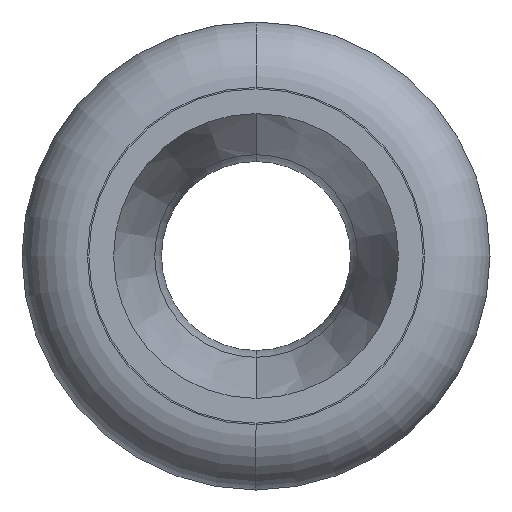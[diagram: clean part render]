
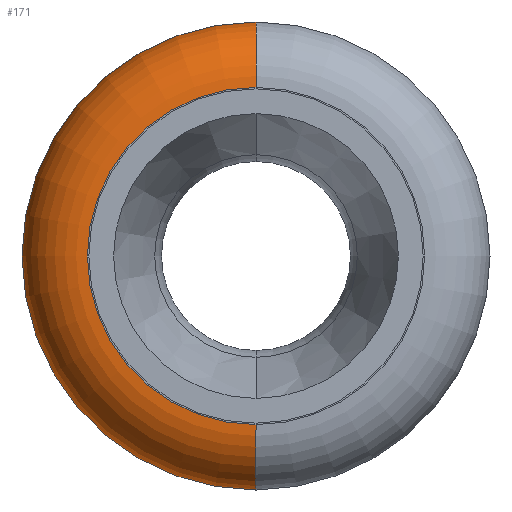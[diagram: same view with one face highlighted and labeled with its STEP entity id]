
A CAD part, left-side view. The second image highlights one B-rep face of the part: STEP entity #171.
In plain terms, the highlighted toroidal (fillet/blend) face has major radius 5.8 mm and minor radius 2.25 mm.
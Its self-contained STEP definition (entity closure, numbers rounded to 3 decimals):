
#171=ADVANCED_FACE('',(#388),#389,.T.);
#388=FACE_OUTER_BOUND('',#668,.T.);
#389=TOROIDAL_SURFACE('',#669,5.8,2.25);
#668=EDGE_LOOP('',(#1097,#1098,#1099,#1100));
#669=AXIS2_PLACEMENT_3D('',#1101,#1102,#1103);
#1097=ORIENTED_EDGE('',*,*,#1571,.T.);
#1098=ORIENTED_EDGE('',*,*,#1655,.F.);
#1099=ORIENTED_EDGE('',*,*,#1656,.F.);
#1100=ORIENTED_EDGE('',*,*,#1657,.F.);
#1101=CARTESIAN_POINT('',(6.5,0.0,0.));
#1102=DIRECTION('',(-1.0,0.0,0.));
#1103=DIRECTION('',(0.,0.0,1.0));
#1571=EDGE_CURVE('',#1812,#1811,#1856,.T.);
#1655=EDGE_CURVE('',#1988,#1811,#1989,.T.);
#1656=EDGE_CURVE('',#1990,#1988,#1991,.T.);
#1657=EDGE_CURVE('',#1812,#1990,#1992,.T.);
#1811=VERTEX_POINT('',#2168);
#1812=VERTEX_POINT('',#2169);
#1856=CIRCLE('',#2213,8.05);
#1988=VERTEX_POINT('',#2363);
#1989=CIRCLE('',#2364,2.25);
#1990=VERTEX_POINT('',#2365);
#1991=CIRCLE('',#2366,5.8);
#1992=CIRCLE('',#2367,2.25);
#2168=CARTESIAN_POINT('',(6.5,0.,-8.05));
#2169=CARTESIAN_POINT('',(6.5,0.,8.05));
#2213=AXIS2_PLACEMENT_3D('',#2630,#2631,#2632);
#2363=CARTESIAN_POINT('',(4.25,0.,-5.8));
#2364=AXIS2_PLACEMENT_3D('',#2786,#2787,#2788);
#2365=CARTESIAN_POINT('',(4.25,0.,5.8));
#2366=AXIS2_PLACEMENT_3D('',#2789,#2790,#2791);
#2367=AXIS2_PLACEMENT_3D('',#2792,#2793,#2794);
#2630=CARTESIAN_POINT('',(6.5,0.0,0.));
#2631=DIRECTION('',(-1.0,0.0,0.));
#2632=DIRECTION('',(0.,0.0,1.0));
#2786=CARTESIAN_POINT('',(6.5,0.,-5.8));
#2787=DIRECTION('',(0.,-1.0,0.));
#2788=DIRECTION('',(0.,0.,-1.0));
#2789=CARTESIAN_POINT('',(4.25,0.0,0.));
#2790=DIRECTION('',(-1.0,0.0,0.));
#2791=DIRECTION('',(0.,0.0,-1.0));
#2792=CARTESIAN_POINT('',(6.5,0.,5.8));
#2793=DIRECTION('',(0.,-1.0,0.));
#2794=DIRECTION('',(0.,0.,1.0));
